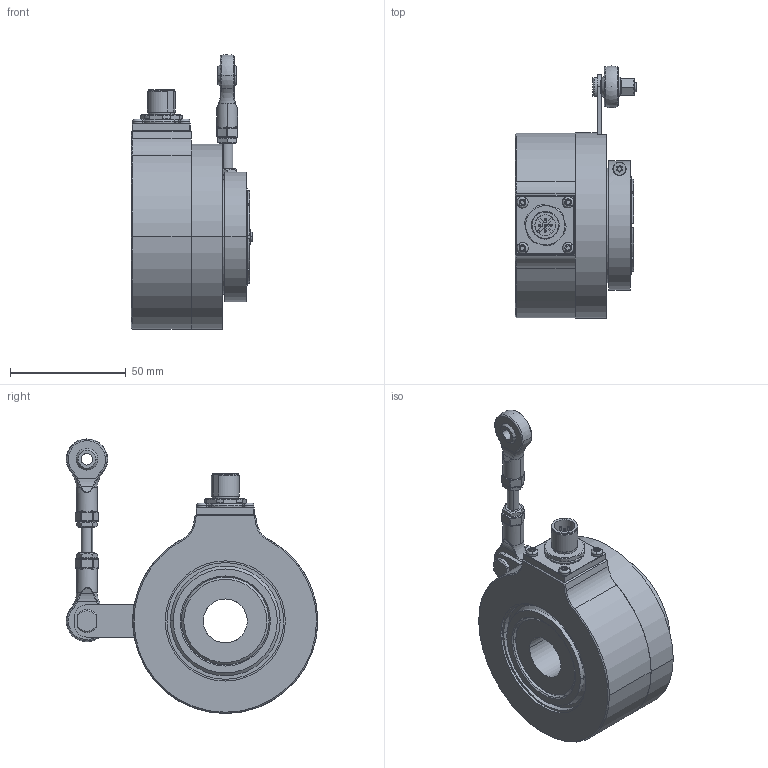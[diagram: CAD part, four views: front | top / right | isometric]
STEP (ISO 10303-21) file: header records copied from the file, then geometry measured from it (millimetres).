
FILE_DESCRIPTION (( 'STEP AP203' ), '1' );
FILE_NAME ('K80I.OXX.XXXXX.XH2585A.6XRC3.step', '2025-12-09T11:26:49', ( '' ), ( '' ), 'SwSTEP 2.0', 'SolidWorks 2021', '' );
FILE_SCHEMA (( 'CONFIG_CONTROL_DESIGN' ));
Length unit declared in the file: millimetre
Products named in the file (1): K80I.OXX.XXXXX.XH2585A.6XRC3
Bounding box: 52.6 x 108.97 x 119.08 mm (x, y, z)
Surface area: 77057.3 mm2 (no closed solid volume)
Topology: 0 solids, 21 shells, 834 faces, 2105 edges, 1316 vertices
Faces by surface type: plane 309, cylinder 280, cone 113, bspline 76, torus 42, sphere 14
Entity records: 28380 total; most frequent: CARTESIAN_POINT 8619, DIRECTION 4186, ORIENTED_EDGE 4118, EDGE_CURVE 2067, AXIS2_PLACEMENT_3D 1663, VERTEX_POINT 1312, EDGE_LOOP 907, CIRCLE 904
